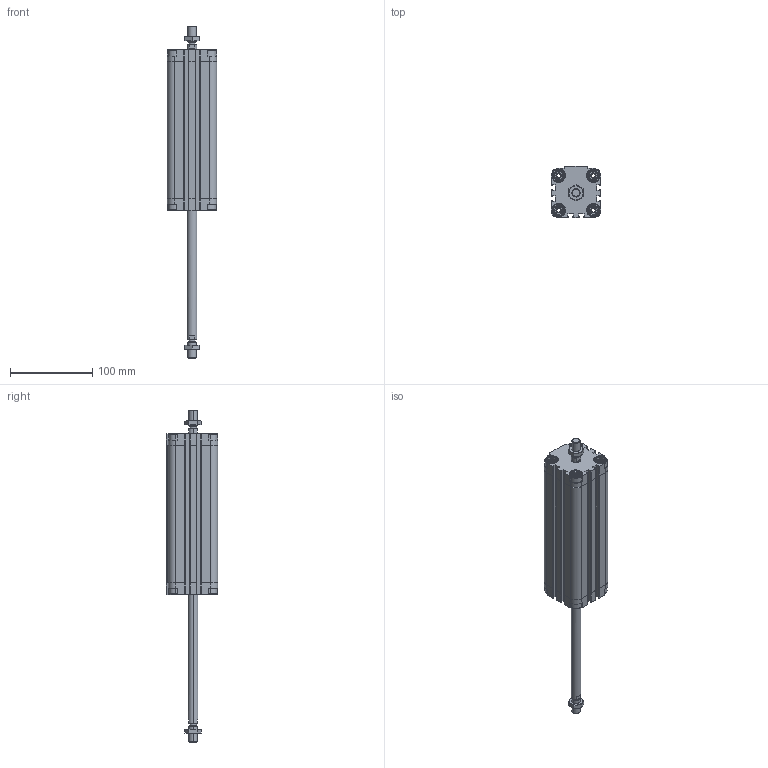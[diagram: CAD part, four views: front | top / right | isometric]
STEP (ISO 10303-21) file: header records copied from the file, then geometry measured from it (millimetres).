
FILE_DESCRIPTION (( 'STEP AP203' ), '1' );
FILE_NAME ('CDVU40-150M-P.STEP', '2020-07-21T15:17:54', ( '' ), ( '' ), 'SwSTEP 2.0', 'SolidWorks 2019', '' );
FILE_SCHEMA (( 'CONFIG_CONTROL_DESIGN' ));
Length unit declared in the file: millimetre
Products named in the file (1): CDVU40-150M-P
Bounding box: 60 x 62.5 x 402.5 mm (x, y, z)
Volume: 473805.6 mm3; surface area: 131683 mm2
Topology: 4 solids, 4 shells, 758 faces, 2004 edges, 1290 vertices
Faces by surface type: plane 438, cylinder 240, cone 80
Entity records: 24115 total; most frequent: CARTESIAN_POINT 5193, ORIENTED_EDGE 4000, DIRECTION 3862, EDGE_CURVE 2000, AXIS2_PLACEMENT_3D 1319, VERTEX_POINT 1290, LINE 1224, VECTOR 1224
